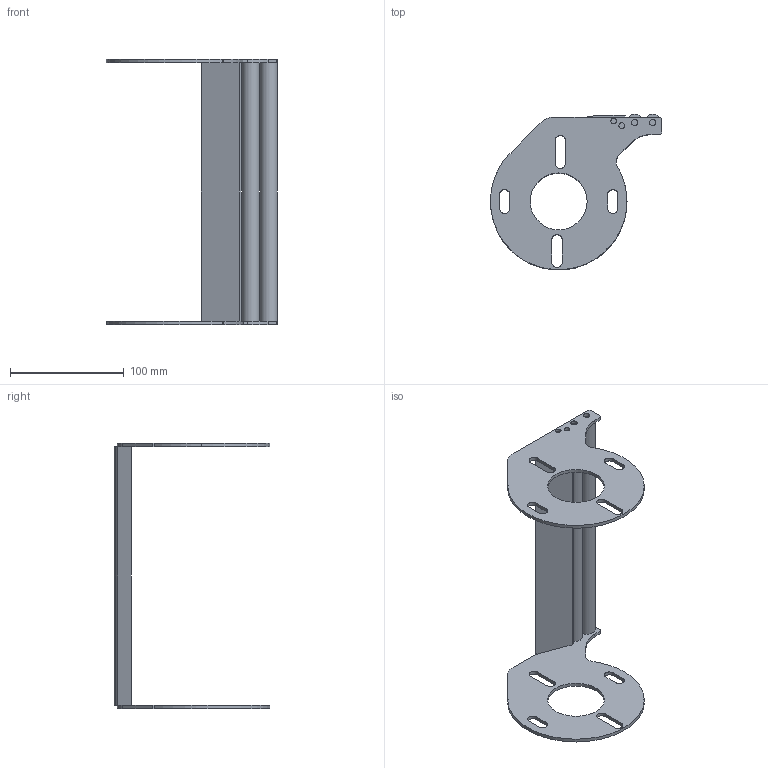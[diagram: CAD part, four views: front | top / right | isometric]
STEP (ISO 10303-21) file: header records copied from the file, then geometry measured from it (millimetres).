
FILE_DESCRIPTION (( 'STEP AP214' ), '1' );
FILE_NAME ('F2 750 TG1R.step', '2017-04-05T07:35:18', ( '' ), ( '' ), 'SwSTEP 2.0', 'SolidWorks 2015', '' );
FILE_SCHEMA (( 'AUTOMOTIVE_DESIGN' ));
Length unit declared in the file: millimetre
Products named in the file (1): F2 750 TG1R
Bounding box: 150.4 x 136.54 x 233 mm (x, y, z)
Volume: 206903.1 mm3; surface area: 88873.1 mm2
Topology: 1 solids, 1 shells, 114 faces, 312 edges, 204 vertices
Faces by surface type: plane 61, cylinder 53
Entity records: 4838 total; most frequent: DIRECTION 656, CARTESIAN_POINT 631, ORIENTED_EDGE 624, EDGE_CURVE 312, AXIS2_PLACEMENT_3D 229, VERTEX_POINT 204, VECTOR 198, LINE 198
